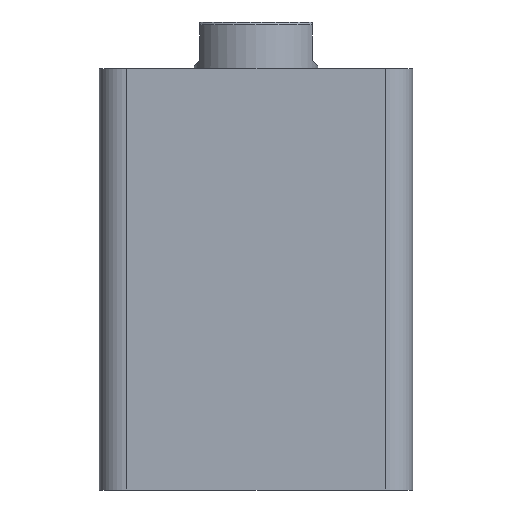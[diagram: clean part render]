
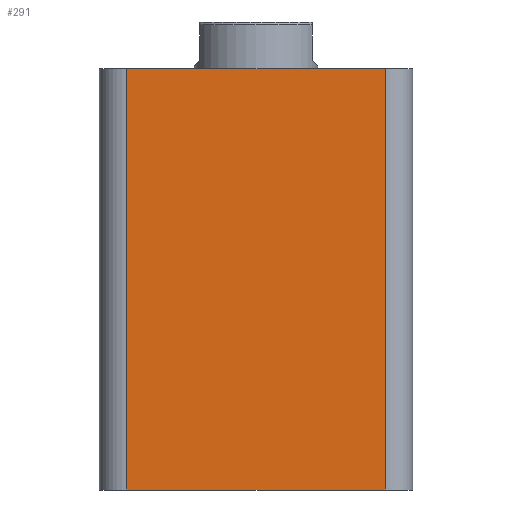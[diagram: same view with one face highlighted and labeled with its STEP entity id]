
A CAD part, front view. The second image highlights one B-rep face of the part: STEP entity #291.
In plain terms, the highlighted planar face has unit normal (0, -1, 0).
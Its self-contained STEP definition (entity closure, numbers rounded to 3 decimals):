
#85 = CARTESIAN_POINT ( 'NONE',  ( -47., -57., 0. ) ) ;
#171 = CARTESIAN_POINT ( 'NONE',  ( 47., -57., 0. ) ) ;
#173 = CARTESIAN_POINT ( 'NONE',  ( -47., -57., 153. ) ) ;
#174 = CARTESIAN_POINT ( 'NONE',  ( 47., -57., 153. ) ) ;
#291 = ADVANCED_FACE ( 'NONE', ( #1768 ), #2223, .F. ) ;
#417 = CARTESIAN_POINT ( 'NONE',  ( 47., -57., 153. ) ) ;
#427 = CARTESIAN_POINT ( 'NONE',  ( -57., -57., 0. ) ) ;
#428 = DIRECTION ( 'NONE',  ( 1., 0., 0. ) ) ;
#429 = DIRECTION ( 'NONE',  ( 0., 0., 1. ) ) ;
#430 = CARTESIAN_POINT ( 'NONE',  ( -57., -57., 153. ) ) ;
#431 = DIRECTION ( 'NONE',  ( 1., 0., 0. ) ) ;
#432 = CARTESIAN_POINT ( 'NONE',  ( -47., -57., 153. ) ) ;
#433 = DIRECTION ( 'NONE',  ( 0., 0., -1. ) ) ;
#771 = LINE ( 'NONE', #417, #782 ) ;
#777 = LINE ( 'NONE', #427, #780 ) ;
#780 = VECTOR ( 'NONE', #428, 1000. ) ;
#781 = LINE ( 'NONE', #430, #784 ) ;
#782 = VECTOR ( 'NONE', #429, 1000. ) ;
#783 = LINE ( 'NONE', #432, #786 ) ;
#784 = VECTOR ( 'NONE', #431, 1000. ) ;
#786 = VECTOR ( 'NONE', #433, 1000. ) ;
#935 = EDGE_LOOP ( 'NONE', ( #1737, #1736, #1735, #1734 ) ) ;
#1256 = VERTEX_POINT ( 'NONE', #85 ) ;
#1342 = VERTEX_POINT ( 'NONE', #171 ) ;
#1344 = VERTEX_POINT ( 'NONE', #173 ) ;
#1345 = VERTEX_POINT ( 'NONE', #174 ) ;
#1527 = EDGE_CURVE ( 'NONE', #1256, #1342, #777, .T. ) ;
#1528 = EDGE_CURVE ( 'NONE', #1342, #1345, #771, .T. ) ;
#1529 = EDGE_CURVE ( 'NONE', #1344, #1345, #781, .T. ) ;
#1530 = EDGE_CURVE ( 'NONE', #1344, #1256, #783, .T. ) ;
#1586 = AXIS2_PLACEMENT_3D ( 'NONE', #2216, #2224, #2225 ) ;
#1734 = ORIENTED_EDGE ( 'NONE', *, *, #1530, .T. ) ;
#1735 = ORIENTED_EDGE ( 'NONE', *, *, #1529, .F. ) ;
#1736 = ORIENTED_EDGE ( 'NONE', *, *, #1528, .T. ) ;
#1737 = ORIENTED_EDGE ( 'NONE', *, *, #1527, .T. ) ;
#1768 = FACE_OUTER_BOUND ( 'NONE', #935, .T. ) ;
#2216 = CARTESIAN_POINT ( 'NONE',  ( -57., -57., 153. ) ) ;
#2223 = PLANE ( 'NONE',  #1586 ) ;
#2224 = DIRECTION ( 'NONE',  ( 0., 1., 0. ) ) ;
#2225 = DIRECTION ( 'NONE',  ( 0., 0., 1. ) ) ;
